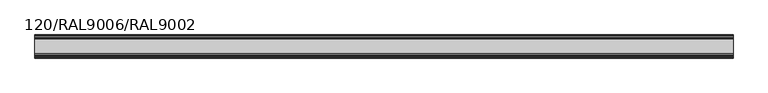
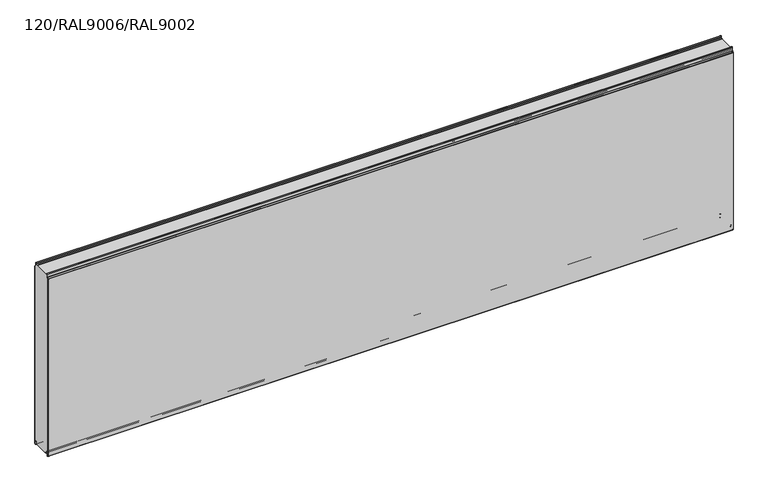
"""IFC4 building model written with IfcOpenShell, lengths in millimetres: plate geometry, TR_C_H_FTV_Panel : 120/RAL9006/RAL9002."""

from ifc_helpers import new_model, si_unit, point, frame, frame_2d, origin, place, context, project, spatial, polyline, circle_curve, trimmed, segment, composite_curve, outline, extrude, source, transform, mapped, element, save


def plate_120_ral9006_ral9002_7d0d0ae2(model_context):
    return source(origin(), model_context, "Body", "SweptSolid", [
        extrude(outline(composite_curve([segment(polyline([(-0.8, 14.4000012), (-9.45, 14.4000012)]), True, "CONTINUOUS"), segment(trimmed(circle_curve(frame_2d((-9.45, 10.1500012)), 4.25), [point((-9.45, 14.4000012))], [point((-13.635433, 10.8880059))], True, "CARTESIAN"), True, "CONTINUOUS"), segment(polyline([(-13.635433, 10.8880059), (-14.7022582, 4.837739)]), True, "CONTINUOUS"), segment(trimmed(circle_curve(frame_2d((-17.6074411, 5.3500012)), 2.95), [point((-14.7022582, 4.837739))], [point((-17.6074411, 2.4000012))], False, "CARTESIAN"), True, "CONTINUOUS"), segment(polyline([(-17.6074411, 2.4000012), (-23.7, 2.4000012), (-23.7, 1.2e-06), (-96.3, 1.2e-06), (-96.3, 2.4000012), (-102.3925589, 2.4000012)]), True, "CONTINUOUS"), segment(trimmed(circle_curve(frame_2d((-102.3925589, 5.3500012)), 2.95), [point((-102.3925589, 2.4000012))], [point((-105.2977418, 4.837739))], False, "CARTESIAN"), True, "CONTINUOUS"), segment(polyline([(-105.2977418, 4.837739), (-106.364567, 10.8880059)]), True, "CONTINUOUS"), segment(trimmed(circle_curve(frame_2d((-110.55, 10.1500012)), 4.25), [point((-106.364567, 10.8880059))], [point((-110.55, 14.4000012))], True, "CARTESIAN"), True, "CONTINUOUS"), segment(polyline([(-110.55, 14.4000012), (-119.2, 14.4000012), (-119.2, 984.3218266)]), True, "CONTINUOUS"), segment(trimmed(circle_curve(frame_2d((-117.0, 984.3218266)), 2.2), [point((-119.2, 984.3218266))], [point((-118.5556349, 985.8774615))], False, "CARTESIAN"), True, "CONTINUOUS"), segment(polyline([(-118.5556349, 985.8774615), (-114.1665476, 990.2665488)]), True, "CONTINUOUS"), segment(trimmed(circle_curve(frame_2d((-116.5, 992.6000012)), 3.3), [point((-114.1665476, 990.2665488))], [point((-113.2, 992.6000012))], True, "CARTESIAN"), True, "CONTINUOUS"), segment(polyline([(-113.2, 992.6000012), (-113.2, 1000.0), (-6.8, 1000.0), (-6.8, 992.6000012)]), True, "CONTINUOUS"), segment(trimmed(circle_curve(frame_2d((-3.5, 992.6000012)), 3.3), [point((-6.8, 992.6000012))], [point((-5.8334524, 990.2665488))], True, "CARTESIAN"), True, "CONTINUOUS"), segment(polyline([(-5.8334524, 990.2665488), (-1.4443651, 985.8774615)]), True, "CONTINUOUS"), segment(trimmed(circle_curve(frame_2d((-3.0, 984.3218266)), 2.2), [point((-1.4443651, 985.8774615))], [point((-0.8, 984.3218266))], False, "CARTESIAN"), True, "CONTINUOUS"), segment(polyline([(-0.8, 984.3218266), (-0.8, 14.4000012)]), True, "CONTINUOUS")], self_intersect=False)), frame((-1810.4, 0.0, 0.0), z_axis=(1.0, 0.0, 0.0), x_axis=(0.0, 1.0, 0.0)), (0.0, 0.0, 1.0), 3620.8),
        extrude(outline(composite_curve([segment(polyline([(-21.0, 2.4000012), (-17.6074411, 2.4000012)]), True, "CONTINUOUS"), segment(trimmed(circle_curve(frame_2d((-17.6074411, 5.3500012)), 2.95), [point((-17.6074411, 2.4000012))], [point((-14.7022582, 4.837739))], True, "CARTESIAN"), True, "CONTINUOUS"), segment(polyline([(-14.7022582, 4.837739), (-13.635433, 10.8880059)]), True, "CONTINUOUS"), segment(trimmed(circle_curve(frame_2d((-9.45, 10.1500012)), 4.25), [point((-13.635433, 10.8880059))], [point((-5.2, 10.1500012))], False, "CARTESIAN"), True, "CONTINUOUS"), segment(polyline([(-5.2, 10.1500012), (-5.2, -7.4499988)]), True, "CONTINUOUS"), segment(trimmed(circle_curve(frame_2d((-4.05, -7.4499988)), 1.15), [point((-5.2, -7.4499988))], [point((-3.2368272, -8.2631716))], True, "CARTESIAN"), True, "CONTINUOUS"), segment(polyline([(-3.2368272, -8.2631716), (-1.3711418, -6.3974862)]), True, "CONTINUOUS"), segment(trimmed(circle_curve(frame_2d((-2.75, -5.018628)), 1.95), [point((-1.3711418, -6.3974862))], [point((-0.8, -5.018628))], True, "CARTESIAN"), True, "CONTINUOUS"), segment(polyline([(-0.8, -5.018628), (-0.8, 984.3218266)]), True, "CONTINUOUS"), segment(trimmed(circle_curve(frame_2d((-3.0, 984.3218266)), 2.2), [point((-0.8, 984.3218266))], [point((-1.4443651, 985.8774615))], True, "CARTESIAN"), True, "CONTINUOUS"), segment(polyline([(-1.4443651, 985.8774615), (-5.8334524, 990.2665488)]), True, "CONTINUOUS"), segment(trimmed(circle_curve(frame_2d((-3.5, 992.6000012)), 3.3), [point((-5.8334524, 990.2665488))], [point((-6.8, 992.6000012))], False, "CARTESIAN"), True, "CONTINUOUS"), segment(polyline([(-6.8, 992.6000012), (-6.8, 1007.3500012)]), True, "CONTINUOUS"), segment(trimmed(circle_curve(frame_2d((-9.25, 1007.3500012)), 2.45), [point((-6.8, 1007.3500012))], [point((-11.662779, 1007.7754392))], True, "CARTESIAN"), True, "CONTINUOUS"), segment(polyline([(-11.662779, 1007.7754392), (-12.4060919, 1003.559902)]), True, "CONTINUOUS"), segment(trimmed(circle_curve(frame_2d((-16.8869672, 1004.3500012)), 4.55), [point((-12.4060919, 1003.559902))], [point((-16.8869672, 999.8000012))], False, "CARTESIAN"), True, "CONTINUOUS"), segment(polyline([(-16.8869672, 999.8000012), (-21.0, 999.8000012), (-21.0, 1000.6000012), (-16.8869672, 1000.6000012)]), True, "CONTINUOUS"), segment(trimmed(circle_curve(frame_2d((-16.8869672, 1004.3500012)), 3.75), [point((-16.8869672, 1000.6000012))], [point((-13.1939382, 1003.6988205))], True, "CARTESIAN"), True, "CONTINUOUS"), segment(polyline([(-13.1939382, 1003.6988205), (-12.4506252, 1007.9143577)]), True, "CONTINUOUS"), segment(trimmed(circle_curve(frame_2d((-9.25, 1007.3500012)), 3.25), [point((-12.4506252, 1007.9143577))], [point((-6.0, 1007.3500012))], False, "CARTESIAN"), True, "CONTINUOUS"), segment(polyline([(-6.0, 1007.3500012), (-6.0, 992.6000012)]), True, "CONTINUOUS"), segment(trimmed(circle_curve(frame_2d((-3.5, 992.6000012)), 2.5), [point((-6.0, 992.6000012))], [point((-5.267767, 990.8322342))], True, "CARTESIAN"), True, "CONTINUOUS"), segment(polyline([(-5.267767, 990.8322342), (-0.8786797, 986.4431469)]), True, "CONTINUOUS"), segment(trimmed(circle_curve(frame_2d((-3.0, 984.3218266)), 3.0), [point((-0.8786797, 986.4431469))], [point((0.0, 984.3218266))], False, "CARTESIAN"), True, "CONTINUOUS"), segment(polyline([(0.0, 984.3218266), (0.0, -5.018628)]), True, "CONTINUOUS"), segment(trimmed(circle_curve(frame_2d((-2.75, -5.018628)), 2.75), [point((0.0, -5.018628))], [point((-0.8054564, -6.9631716))], False, "CARTESIAN"), True, "CONTINUOUS"), segment(polyline([(-0.8054564, -6.9631716), (-2.6711418, -8.8288571)]), True, "CONTINUOUS"), segment(trimmed(circle_curve(frame_2d((-4.05, -7.4499988)), 1.95), [point((-2.6711418, -8.8288571))], [point((-6.0, -7.4499988))], False, "CARTESIAN"), True, "CONTINUOUS"), segment(polyline([(-6.0, -7.4499988), (-6.0, 10.1500012)]), True, "CONTINUOUS"), segment(trimmed(circle_curve(frame_2d((-9.45, 10.1500012)), 3.45), [point((-6.0, 10.1500012))], [point((-12.8475867, 10.7490874))], True, "CARTESIAN"), True, "CONTINUOUS"), segment(polyline([(-12.8475867, 10.7490874), (-13.914412, 4.6988205)]), True, "CONTINUOUS"), segment(trimmed(circle_curve(frame_2d((-17.6074411, 5.3500012)), 3.75), [point((-13.914412, 4.6988205))], [point((-17.6074411, 1.6000012))], False, "CARTESIAN"), True, "CONTINUOUS"), segment(polyline([(-17.6074411, 1.6000012), (-21.0, 1.6000012), (-21.0, 2.4000012)]), True, "CONTINUOUS")], self_intersect=False)), frame((-1810.4, 0.0, 0.0), z_axis=(1.0, 0.0, 0.0), x_axis=(0.0, 1.0, 0.0)), (0.0, 0.0, 1.0), 3620.8),
        extrude(outline(composite_curve([segment(trimmed(circle_curve(frame_2d((-103.1130328, 1004.3500012)), 4.55), [point((-103.1130328, 999.8000012))], [point((-107.5939081, 1003.559902))], False, "CARTESIAN"), True, "CONTINUOUS"), segment(polyline([(-107.5939081, 1003.559902), (-108.337221, 1007.7754392)]), True, "CONTINUOUS"), segment(trimmed(circle_curve(frame_2d((-110.75, 1007.3500012)), 2.45), [point((-108.337221, 1007.7754392))], [point((-113.2, 1007.3500012))], True, "CARTESIAN"), True, "CONTINUOUS"), segment(polyline([(-113.2, 1007.3500012), (-113.2, 992.6000012)]), True, "CONTINUOUS"), segment(trimmed(circle_curve(frame_2d((-116.5, 992.6000012)), 3.3), [point((-113.2, 992.6000012))], [point((-114.1665476, 990.2665488))], False, "CARTESIAN"), True, "CONTINUOUS"), segment(polyline([(-114.1665476, 990.2665488), (-118.5556349, 985.8774615)]), True, "CONTINUOUS"), segment(trimmed(circle_curve(frame_2d((-117.0, 984.3218266)), 2.2), [point((-118.5556349, 985.8774615))], [point((-119.2, 984.3218266))], True, "CARTESIAN"), True, "CONTINUOUS"), segment(polyline([(-119.2, 984.3218266), (-119.2, -5.018628)]), True, "CONTINUOUS"), segment(trimmed(circle_curve(frame_2d((-117.25, -5.018628)), 1.95), [point((-119.2, -5.018628))], [point((-118.6288582, -6.3974862))], True, "CARTESIAN"), True, "CONTINUOUS"), segment(polyline([(-118.6288582, -6.3974862), (-116.7631728, -8.2631716)]), True, "CONTINUOUS"), segment(trimmed(circle_curve(frame_2d((-115.95, -7.4499988)), 1.15), [point((-116.7631728, -8.2631716))], [point((-114.8, -7.4499988))], True, "CARTESIAN"), True, "CONTINUOUS"), segment(polyline([(-114.8, -7.4499988), (-114.8, 10.1500012)]), True, "CONTINUOUS"), segment(trimmed(circle_curve(frame_2d((-110.55, 10.1500012)), 4.25), [point((-114.8, 10.1500012))], [point((-106.364567, 10.8880059))], False, "CARTESIAN"), True, "CONTINUOUS"), segment(polyline([(-106.364567, 10.8880059), (-105.2977418, 4.837739)]), True, "CONTINUOUS"), segment(trimmed(circle_curve(frame_2d((-102.3925589, 5.3500012)), 2.95), [point((-105.2977418, 4.837739))], [point((-102.3925589, 2.4000012))], True, "CARTESIAN"), True, "CONTINUOUS"), segment(polyline([(-102.3925589, 2.4000012), (-99.0, 2.4000012), (-99.0, 1.6000012), (-102.3925589, 1.6000012)]), True, "CONTINUOUS"), segment(trimmed(circle_curve(frame_2d((-102.3925589, 5.3500012)), 3.75), [point((-102.3925589, 1.6000012))], [point((-106.085588, 4.6988205))], False, "CARTESIAN"), True, "CONTINUOUS"), segment(polyline([(-106.085588, 4.6988205), (-107.1524133, 10.7490874)]), True, "CONTINUOUS"), segment(trimmed(circle_curve(frame_2d((-110.55, 10.1500012)), 3.45), [point((-107.1524133, 10.7490874))], [point((-114.0, 10.1500012))], True, "CARTESIAN"), True, "CONTINUOUS"), segment(polyline([(-114.0, 10.1500012), (-114.0, -7.4499988)]), True, "CONTINUOUS"), segment(trimmed(circle_curve(frame_2d((-115.95, -7.4499988)), 1.95), [point((-114.0, -7.4499988))], [point((-117.3288582, -8.8288571))], False, "CARTESIAN"), True, "CONTINUOUS"), segment(polyline([(-117.3288582, -8.8288571), (-119.1945436, -6.9631716)]), True, "CONTINUOUS"), segment(trimmed(circle_curve(frame_2d((-117.25, -5.018628)), 2.75), [point((-119.1945436, -6.9631716))], [point((-120.0, -5.018628))], False, "CARTESIAN"), True, "CONTINUOUS"), segment(polyline([(-120.0, -5.018628), (-120.0, 984.3218266)]), True, "CONTINUOUS"), segment(trimmed(circle_curve(frame_2d((-117.0, 984.3218266)), 3.0), [point((-120.0, 984.3218266))], [point((-119.1213203, 986.4431469))], False, "CARTESIAN"), True, "CONTINUOUS"), segment(polyline([(-119.1213203, 986.4431469), (-114.732233, 990.8322342)]), True, "CONTINUOUS"), segment(trimmed(circle_curve(frame_2d((-116.5, 992.6000012)), 2.5), [point((-114.732233, 990.8322342))], [point((-114.0, 992.6000012))], True, "CARTESIAN"), True, "CONTINUOUS"), segment(polyline([(-114.0, 992.6000012), (-114.0, 1007.3500012)]), True, "CONTINUOUS"), segment(trimmed(circle_curve(frame_2d((-110.75, 1007.3500012)), 3.25), [point((-114.0, 1007.3500012))], [point((-107.5493748, 1007.9143577))], False, "CARTESIAN"), True, "CONTINUOUS"), segment(polyline([(-107.5493748, 1007.9143577), (-106.8060618, 1003.6988205)]), True, "CONTINUOUS"), segment(trimmed(circle_curve(frame_2d((-103.1130328, 1004.3500012)), 3.75), [point((-106.8060618, 1003.6988205))], [point((-103.1130328, 1000.6000012))], True, "CARTESIAN"), True, "CONTINUOUS"), segment(polyline([(-103.1130328, 1000.6000012), (-99.0, 1000.6000012), (-99.0, 999.8000012), (-103.1130328, 999.8000012)]), True, "CONTINUOUS")], self_intersect=False)), frame((-1810.4, 0.0, 0.0), z_axis=(1.0, 0.0, 0.0), x_axis=(0.0, 1.0, 0.0)), (0.0, 0.0, 1.0), 3620.8),
    ])


if __name__ == "__main__":
    model = new_model("IFC4")
    model_context = context("Model", 3, world=origin())
    ifc_project = project(units=[si_unit("LENGTHUNIT", "METRE", prefix="MILLI")], contexts=[model_context])
    site = spatial("IfcSite", under=ifc_project)
    building = spatial("IfcBuilding", under=site)
    placement = place(None, origin())
    plate_120_ral9006_ral9002_shape = plate_120_ral9006_ral9002_7d0d0ae2(model_context)
    element("IfcPlate", 1, ObjectType="TR_C_H_FTV_Panel : 120/RAL9006/RAL9002", at=placement, inside=building, context=model_context, shape_type="MappedRepresentation", body=[
        mapped(plate_120_ral9006_ral9002_shape, transform((0.0, 0.0, 0.0), x_axis=(1.0, 0.0, 0.0), y_axis=(0.0, 1.0, 0.0), z_axis=(0.0, 0.0, 1.0))),
    ])
    save(model, "model.ifc")
